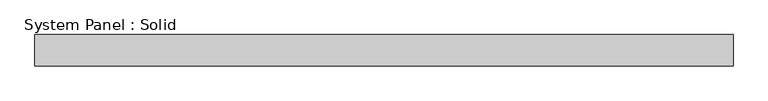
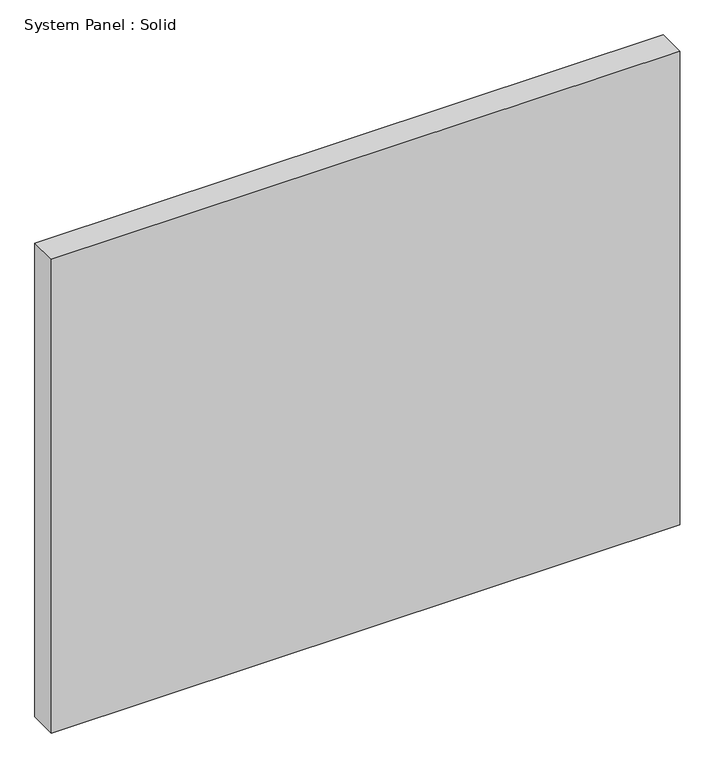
"""IFC4 building model written with IfcOpenShell, lengths in millimetres: plate geometry, System Panel : Solid."""

import ifcopenshell
import ifcopenshell.guid

model = None  # the IFC model being written
_history = None  # IfcOwnerHistory: only IFC2X3 demands one
_inside = {}  # id of a spatial element -> (the spatial element, [elements in it])
_under = {}  # id of a project, library or spatial element -> (it, [spatial elements below it])
_declared = {}  # id of a project -> (the project, [libraries it declares])
_typed = {}  # id of a type object -> (the type object, [elements of that type])
_made_of = {}  # id of a material, layer set ... -> (it, [elements and type objects made of it])


def new_model(schema):
    """Start an empty IFC model of exactly this schema.

    Asked for "IFC4X3", IfcOpenShell would pick the latest addendum, in which some entities
    have other attributes; the version numbers below select the first issue.
    IFC2X3 requires an IfcOwnerHistory on every rooted entity: one is made here for all.
    """
    global model, _history
    if schema == "IFC4X3":
        model = ifcopenshell.file(schema_version=(4, 3, 0, 0))
    else:
        model = ifcopenshell.file(schema=schema)
    _inside.clear()
    _under.clear()
    _declared.clear()
    _typed.clear()
    _made_of.clear()
    _history = None
    if model.schema == "IFC2X3":
        org = make("IfcOrganization", Name="unknown")
        user = make(
            "IfcPersonAndOrganization",
            ThePerson=make("IfcPerson", FamilyName="unknown"),
            TheOrganization=org,
        )
        app = make(
            "IfcApplication",
            ApplicationDeveloper=org,
            Version="unknown",
            ApplicationFullName="unknown",
            ApplicationIdentifier="unknown",
        )
        _history = make(
            "IfcOwnerHistory",
            OwningUser=user,
            OwningApplication=app,
            ChangeAction="ADDED",
            CreationDate=0,
        )
    return model


def make(cls, **values):
    """One entity of the class cls with the attributes given. An attribute that is None is left unset."""
    return model.create_entity(
        cls, **{name: value for name, value in values.items() if value is not None}
    )


def rooted(cls, **values):
    """An entity with a GlobalId (a new one), such as an element, a storey or a relation."""
    return make(cls, GlobalId=ifcopenshell.guid.new(), OwnerHistory=_history, **values)


def si_unit(unit_type, name, prefix=None):
    """IfcSIUnit, for example si_unit("LENGTHUNIT", "METRE", prefix="MILLI")."""
    return make("IfcSIUnit", UnitType=unit_type, Prefix=prefix, Name=name)


def assignment(units):
    """IfcUnitAssignment: the units of a project."""
    return None if units is None else make("IfcUnitAssignment", Units=units)


def point(xyz):
    """IfcCartesianPoint."""
    return None if xyz is None else make("IfcCartesianPoint", Coordinates=xyz)


def direction(xyz):
    """IfcDirection."""
    return None if xyz is None else make("IfcDirection", DirectionRatios=xyz)


def frame(location, z_axis=None, x_axis=None):
    """IfcAxis2Placement3D, a coordinate frame: its origin and axes. An axis left out is left unset."""
    return make(
        "IfcAxis2Placement3D",
        Location=point(location),
        Axis=direction(z_axis),
        RefDirection=direction(x_axis),
    )


def origin():
    """The frame at (0, 0, 0) with its axes left unset."""
    return frame((0.0, 0.0, 0.0))


def origin_with_axes():
    """The frame at (0, 0, 0) with the z axis (0, 0, 1) and the x axis (1, 0, 0) written out."""
    return frame((0.0, 0.0, 0.0), z_axis=(0.0, 0.0, 1.0), x_axis=(1.0, 0.0, 0.0))


def place(relative_to, where):
    """IfcLocalPlacement: puts the frame where relative to a parent placement (None: the world)."""
    return make(
        "IfcLocalPlacement", PlacementRelTo=relative_to, RelativePlacement=where
    )


def context(
    kind, dimensions, precision=None, world=None, true_north=None, identifier=None
):
    """IfcGeometricRepresentationContext, for example the 3D "Model" context."""
    return make(
        "IfcGeometricRepresentationContext",
        ContextIdentifier=identifier,
        ContextType=kind,
        CoordinateSpaceDimension=dimensions,
        Precision=precision,
        WorldCoordinateSystem=world,
        TrueNorth=true_north,
    )


def project(units=None, contexts=None):
    """IfcProject with its units and contexts."""
    return rooted(
        "IfcProject",
        Name="project",
        RepresentationContexts=contexts,
        UnitsInContext=assignment(units),
    )


def spatial(cls, under=None, at=None, **own):
    """A site, building, storey or space (cls), placed at a placement, below another one or the project."""
    s = rooted(cls, ObjectPlacement=at, **own)
    if under is not None:
        _under.setdefault(under.id(), (under, []))[1].append(s)
    return s


def polyline(points):
    """IfcPolyline through the points."""
    return make("IfcPolyline", Points=[point(p) for p in points])


def outline(outer, holes=None, kind="AREA"):
    """IfcArbitraryClosedProfileDef: a profile drawn as a closed curve; with holes, ...WithVoids."""
    if holes is None:
        return make("IfcArbitraryClosedProfileDef", ProfileType=kind, OuterCurve=outer)
    return make(
        "IfcArbitraryProfileDefWithVoids",
        ProfileType=kind,
        OuterCurve=outer,
        InnerCurves=holes,
    )


def extrude(swept, where, along, depth):
    """IfcExtrudedAreaSolid: the profile swept, set in the frame where, extruded along a direction by depth."""
    return make(
        "IfcExtrudedAreaSolid",
        SweptArea=swept,
        Position=where,
        ExtrudedDirection=direction(along),
        Depth=depth,
    )


def shape(context_of_items, identifier, shape_type, items):
    """IfcShapeRepresentation: the items that make up one representation, for example the "Body"."""
    return make(
        "IfcShapeRepresentation",
        ContextOfItems=context_of_items,
        RepresentationIdentifier=identifier,
        RepresentationType=shape_type,
        Items=items,
    )


def source(mapping_origin, context_of_items, identifier, shape_type, items):
    """IfcRepresentationMap: a shape defined once, which mapped items show again and again."""
    return make(
        "IfcRepresentationMap",
        MappingOrigin=mapping_origin,
        MappedRepresentation=shape(context_of_items, identifier, shape_type, items),
    )


def transform(
    local_origin,
    x_axis=None,
    y_axis=None,
    z_axis=None,
    scale=None,
    scale2=None,
    scale3=None,
    uniform=True,
):
    """IfcCartesianTransformationOperator3D, or its non-uniform kind. x_axis, y_axis, z_axis: its Axis1, 2, 3."""
    if uniform:
        return make(
            "IfcCartesianTransformationOperator3D",
            Axis1=direction(x_axis),
            Axis2=direction(y_axis),
            LocalOrigin=point(local_origin),
            Scale=scale,
            Axis3=direction(z_axis),
        )
    return make(
        "IfcCartesianTransformationOperator3DnonUniform",
        Axis1=direction(x_axis),
        Axis2=direction(y_axis),
        LocalOrigin=point(local_origin),
        Scale=scale,
        Axis3=direction(z_axis),
        Scale2=scale2,
        Scale3=scale3,
    )


def mapped(mapping_source, mapping_target):
    """IfcMappedItem: shows the shape of a source again, moved by a transform."""
    return make(
        "IfcMappedItem", MappingSource=mapping_source, MappingTarget=mapping_target
    )


def made_of(thing, what):
    """Note that an element or type object is made of a material, layer set ...; save() writes the relation."""
    if what is not None:
        _made_of.setdefault(what.id(), (what, []))[1].append(thing)
    return thing


def element(
    cls,
    number,
    at=None,
    inside=None,
    cuts=None,
    type_object=None,
    material=None,
    context=None,
    identifier="Body",
    shape_type=None,
    held_by="IfcProductDefinitionShape",
    body=None,
    shapes=None,
    **own,
):
    """One element of the class cls, such as IfcWall. Its Tag is "e" and its number.

    at: its placement. inside: the storey or other place that contains it. cuts: it is an
    opening in that element (IfcRelVoidsElement). A single representation is given by context,
    identifier, shape_type and body (its items); several are given by shapes. held_by: the class
    of the entity that holds the representations. save() writes the other relations.
    """
    e = rooted(cls, Tag="e%d" % number, ObjectPlacement=at, **own)
    if body is not None:
        shapes = [shape(context, identifier, shape_type, body)]
    if shapes is not None:
        e.Representation = make(held_by, Representations=shapes)
    if inside is not None:
        _inside.setdefault(inside.id(), (inside, []))[1].append(e)
    if cuts is not None:
        rooted(
            "IfcRelVoidsElement", RelatingBuildingElement=cuts, RelatedOpeningElement=e
        )
    if type_object is not None:
        _typed.setdefault(type_object.id(), (type_object, []))[1].append(e)
    return made_of(e, material)


def aggregate(whole, parts):
    """IfcRelAggregates: a whole, such as a stair, and the parts it consists of."""
    return rooted("IfcRelAggregates", RelatingObject=whole, RelatedObjects=parts)


def save(model, path):
    """Write the relations noted so far, then the file.

    IfcRelAggregates (storeys below a building ...), IfcRelContainedInSpatialStructure (elements
    in a storey), IfcRelDefinesByType, IfcRelAssociatesMaterial and IfcRelDeclares: one each for
    every whole, place, type object, material and project.
    """
    for whole, parts in _under.values():
        aggregate(whole, parts)
    for where, things in _inside.values():
        rooted(
            "IfcRelContainedInSpatialStructure",
            RelatedElements=things,
            RelatingStructure=where,
        )
    for kind, things in _typed.values():
        rooted("IfcRelDefinesByType", RelatedObjects=things, RelatingType=kind)
    for what, things in _made_of.values():
        rooted("IfcRelAssociatesMaterial", RelatedObjects=things, RelatingMaterial=what)
    for by, libraries in _declared.values():
        rooted("IfcRelDeclares", RelatingContext=by, RelatedDefinitions=libraries)
    model.write(path)


def system_panel_solid_d79d7947(model_context):
    return source(origin(), model_context, "Body", "SweptSolid", [
        extrude(outline(polyline([(705.1113156, -19.05), (-705.1113156, -19.05), (-705.1113156, 44.45), (705.1113156, 44.45), (705.1113156, -19.05)])), origin_with_axes(), (0.0, 0.0, 1.0), 1123.95),
    ])


if __name__ == "__main__":
    model = new_model("IFC4")
    model_context = context("Model", 3, world=origin())
    ifc_project = project(units=[si_unit("LENGTHUNIT", "METRE", prefix="MILLI")], contexts=[model_context])
    site = spatial("IfcSite", under=ifc_project)
    building = spatial("IfcBuilding", under=site)
    placement = place(None, origin())
    system_panel_solid_shape = system_panel_solid_d79d7947(model_context)
    element("IfcPlate", 1, ObjectType="System Panel : Solid", at=placement, inside=building, context=model_context, shape_type="MappedRepresentation", body=[
        mapped(system_panel_solid_shape, transform((0.0, 0.0, 0.0), x_axis=(1.0, 0.0, 0.0), y_axis=(0.0, 1.0, 0.0), z_axis=(0.0, 0.0, 1.0))),
    ])
    save(model, "model.ifc")
